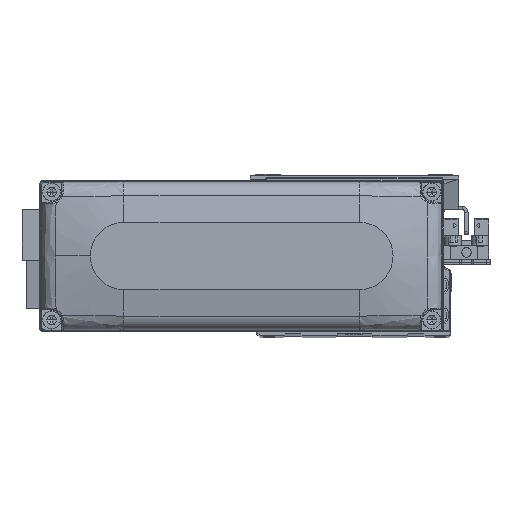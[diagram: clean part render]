
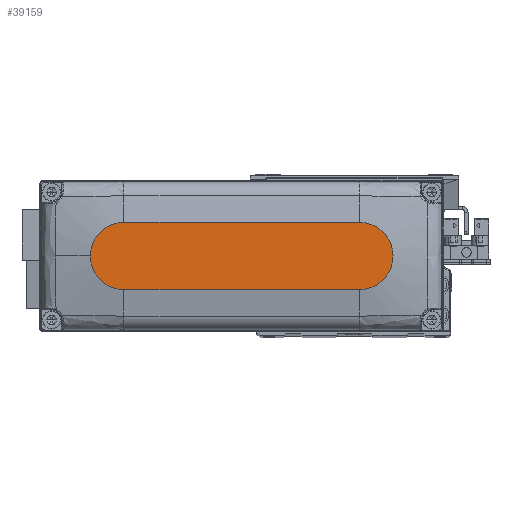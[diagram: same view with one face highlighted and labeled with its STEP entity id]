
A CAD part, top view. The second image highlights one B-rep face of the part: STEP entity #39159.
In plain terms, the highlighted planar face has unit normal (0, 0, 1).
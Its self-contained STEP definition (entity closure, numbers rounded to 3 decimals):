
#537 = AXIS2_PLACEMENT_3D ( 'NONE', #25865, #38877, #9663 ) ;
#1084 = CARTESIAN_POINT ( 'NONE',  ( -35., 0., 28. ) ) ;
#2654 = LINE ( 'NONE', #15671, #14451 ) ;
#5031 = AXIS2_PLACEMENT_3D ( 'NONE', #1084, #14092, #27091 ) ;
#6181 = ORIENTED_EDGE ( 'NONE', *, *, #28617, .T. ) ;
#6793 = DIRECTION ( 'NONE',  ( 1., 0., 0. ) ) ;
#7552 = AXIS2_PLACEMENT_3D ( 'NONE', #11638, #24633, #37633 ) ;
#8352 = CARTESIAN_POINT ( 'NONE',  ( -35., -10., 28. ) ) ;
#9663 = DIRECTION ( 'NONE',  ( 1., 0., 0. ) ) ;
#9790 = VERTEX_POINT ( 'NONE', #25869 ) ;
#9988 = PLANE ( 'NONE',  #14504 ) ;
#11638 = CARTESIAN_POINT ( 'NONE',  ( 35., 0., 28. ) ) ;
#11992 = DIRECTION ( 'NONE',  ( 1., 0., 0. ) ) ;
#13714 = CARTESIAN_POINT ( 'NONE',  ( 45., 0., 28. ) ) ;
#14092 = DIRECTION ( 'NONE',  ( 0., 0., 1. ) ) ;
#14325 = EDGE_CURVE ( 'NONE', #38261, #38356, #25923, .T. ) ;
#14451 = VECTOR ( 'NONE', #28649, 1000. ) ;
#14504 = AXIS2_PLACEMENT_3D ( 'NONE', #23006, #36006, #6793 ) ;
#15671 = CARTESIAN_POINT ( 'NONE',  ( -35., 10., 28. ) ) ;
#17526 = EDGE_CURVE ( 'NONE', #38883, #18981, #23431, .T. ) ;
#18908 = CIRCLE ( 'NONE', #537, 10. ) ;
#18981 = VERTEX_POINT ( 'NONE', #8352 ) ;
#21087 = CARTESIAN_POINT ( 'NONE',  ( -35., 10., 28. ) ) ;
#22295 = ORIENTED_EDGE ( 'NONE', *, *, #38248, .T. ) ;
#23006 = CARTESIAN_POINT ( 'NONE',  ( 0., 0., 28. ) ) ;
#23415 = VECTOR ( 'NONE', #11992, 1000. ) ;
#23431 = CIRCLE ( 'NONE', #5031, 10. ) ;
#24633 = DIRECTION ( 'NONE',  ( 0., 0., 1. ) ) ;
#25865 = CARTESIAN_POINT ( 'NONE',  ( 35., 0., 28. ) ) ;
#25869 = CARTESIAN_POINT ( 'NONE',  ( 35., 10., 28. ) ) ;
#25923 = CIRCLE ( 'NONE', #7552, 10. ) ;
#27091 = DIRECTION ( 'NONE',  ( 1., 0., 0. ) ) ;
#27215 = EDGE_CURVE ( 'NONE', #9790, #38883, #2654, .T. ) ;
#28179 = LINE ( 'NONE', #41196, #23415 ) ;
#28617 = EDGE_CURVE ( 'NONE', #18981, #38261, #28179, .T. ) ;
#28649 = DIRECTION ( 'NONE',  ( -1., 0., 0. ) ) ;
#30746 = ORIENTED_EDGE ( 'NONE', *, *, #17526, .T. ) ;
#33661 = ORIENTED_EDGE ( 'NONE', *, *, #14325, .T. ) ;
#34304 = EDGE_LOOP ( 'NONE', ( #36421, #30746, #6181, #33661, #22295 ) ) ;
#35664 = CARTESIAN_POINT ( 'NONE',  ( 35., -10., 28. ) ) ;
#36006 = DIRECTION ( 'NONE',  ( 0., 0., 1. ) ) ;
#36421 = ORIENTED_EDGE ( 'NONE', *, *, #27215, .T. ) ;
#37633 = DIRECTION ( 'NONE',  ( 1., 0., 0. ) ) ;
#38248 = EDGE_CURVE ( 'NONE', #38356, #9790, #18908, .T. ) ;
#38261 = VERTEX_POINT ( 'NONE', #35664 ) ;
#38356 = VERTEX_POINT ( 'NONE', #13714 ) ;
#38877 = DIRECTION ( 'NONE',  ( 0., 0., 1. ) ) ;
#38883 = VERTEX_POINT ( 'NONE', #21087 ) ;
#39159 = ADVANCED_FACE ( 'NONE', ( #39192 ), #9988, .T. ) ;
#39192 = FACE_OUTER_BOUND ( 'NONE', #34304, .T. ) ;
#41196 = CARTESIAN_POINT ( 'NONE',  ( -35., -10., 28. ) ) ;
